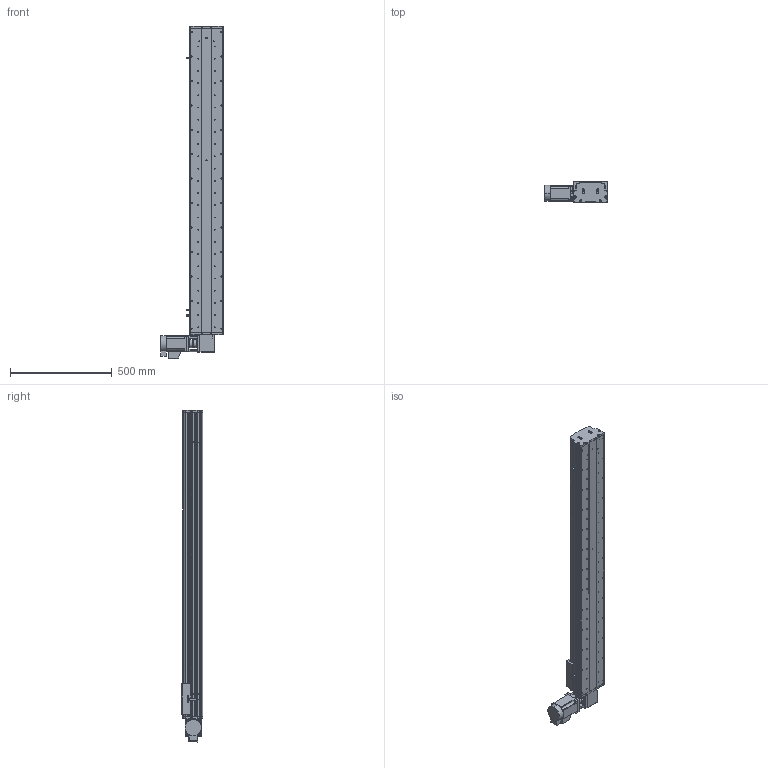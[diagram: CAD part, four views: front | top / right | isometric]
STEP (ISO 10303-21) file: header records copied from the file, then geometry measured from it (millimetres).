
FILE_DESCRIPTION (( 'STEP AP214' ), '1' );
FILE_NAME ('KSD165B-S1250-MRT-CM.STEP', '2017-10-17T01:39:51', ( '微软用户' ), ( '微软中国' ), 'SwSTEP 2.0', 'SolidWorks 2014', '' );
FILE_SCHEMA (( 'AUTOMOTIVE_DESIGN' ));
Length unit declared in the file: millimetre
Products named in the file (16): KSD165模组同步带-防撞垫1; KSD165耀郪-ヶ傷啣1-肮祭湍; KSD165模组-后端板1-同步带; 130宽马达安装板1-带电机座750W（1）; KSD165模组-同步带滑动座-最新版; KSD165B-S1250-MRT-CM; 165宽马达安装板同步带左-改; KSD165模组-同步带防尘盖1-1250行程; KSD165模组同步带底板-1250行程; 拸秶雄ん750W侜督萇儂; 165宽安装板同步带带电机座750W; C39ㄜ1419WP; U倰嫖萇假蚾璃; U倰嫖萇EEㄜSX672; 覜茼え68遵圉猾敕; KSD165模组-同步带-防撞垫2
Assembly tree (19 placements, depth 2):
  KSD165B-S1250-MRT-CM
    KSD165模组-同步带滑动座-最新版
    130宽马达安装板1-带电机座750W（1）
    KSD165模组-后端板1-同步带
    KSD165耀郪-ヶ傷啣1-肮祭湍
    KSD165模组同步带-防撞垫1
    KSD165模组-同步带-防撞垫2
    覜茼え68遵圉猾敕
    U倰嫖萇EEㄜSX672  x3
    U倰嫖萇假蚾璃  x3
    C39ㄜ1419WP
    165宽安装板同步带带电机座750W
    拸秶雄ん750W侜督萇儂
    KSD165模组同步带底板-1250行程
    KSD165模组-同步带防尘盖1-1250行程
    165宽马达安装板同步带左-改
Bounding box: 307.5 x 104 x 1631.06 mm (x, y, z)
Volume: 9013701.7 mm3; surface area: 2047681.2 mm2
Topology: 20 solids, 21 shells, 1554 faces, 4332 edges, 2809 vertices
Faces by surface type: cylinder 873, plane 587, cone 94
Entity records: 50035 total; most frequent: CARTESIAN_POINT 10471, DIRECTION 7754, ORIENTED_EDGE 7316, EDGE_CURVE 3658, AXIS2_PLACEMENT_3D 2964, VERTEX_POINT 2401, VECTOR 1826, LINE 1826
